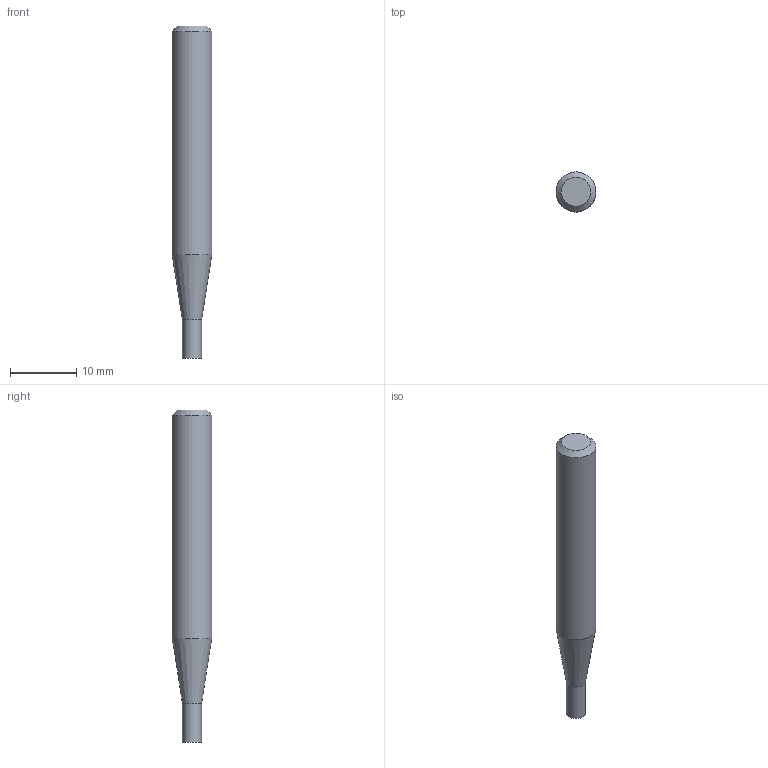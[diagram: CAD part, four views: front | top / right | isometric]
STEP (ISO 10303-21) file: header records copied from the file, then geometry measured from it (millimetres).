
FILE_DESCRIPTION((''),'2;1');
FILE_NAME('C:\Users\nsx150\AppData\Local\Temp\Mastercam 2021\QTW1OOEEGF\TEMP.step','2021-04-08T10:36:47',(''),(''),'STEP Write','Mastercam 2021 ... CNC Software, Inc.','');
FILE_SCHEMA(('AUTOMOTIVE_DESIGN'));
Length unit declared in the file: millimetre
Products named in the file (1): None
Bounding box: 6 x 6 x 50 mm (x, y, z)
Volume: 1164.2 mm3; surface area: 878.5 mm2
Topology: 2 solids, 2 shells, 8 faces, 10 edges, 6 vertices
Faces by surface type: plane 4, cylinder 2, cone 2
Full cylindrical faces by diameter (mm): 2.9 x1, 6 x1
Entity records: 190 total; most frequent: DIRECTION 32, CARTESIAN_POINT 22, AXIS2_PLACEMENT_3D 16, ORIENTED_EDGE 12, EDGE_LOOP 12, STYLED_ITEM 11, ADVANCED_FACE 8, VERTEX_POINT 6
